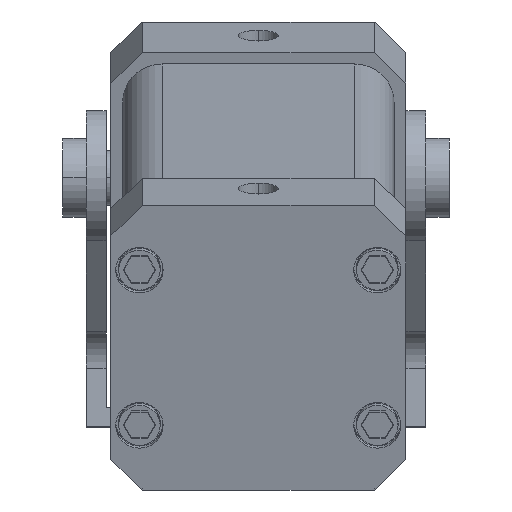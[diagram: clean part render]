
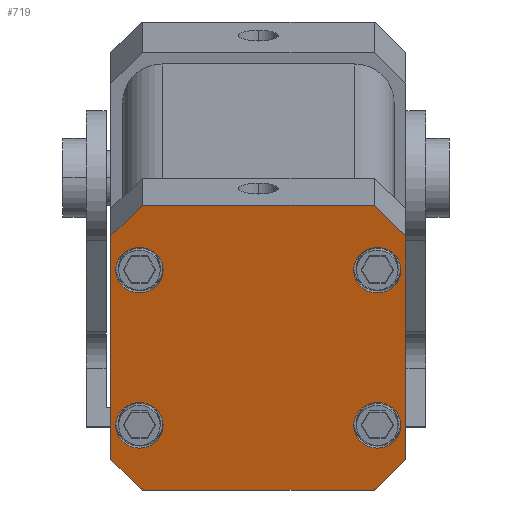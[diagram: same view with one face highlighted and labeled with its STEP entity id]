
A CAD part, top view. The second image highlights one B-rep face of the part: STEP entity #719.
In plain terms, the highlighted planar face has unit normal (0, -0.267, 0.964) as drawn and (0, 0, 1) by its records, which use the part's own axes.
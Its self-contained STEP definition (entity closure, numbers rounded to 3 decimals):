
#127 = EDGE_LOOP ( 'NONE', ( #15977, #11120 ) ) ;
#320 = LINE ( 'NONE', #19350, #10382 ) ;
#416 = CARTESIAN_POINT ( 'NONE',  ( 35.4, 35.4, 87.6 ) ) ;
#429 = CARTESIAN_POINT ( 'NONE',  ( 6.625, 8.5, 87.6 ) ) ;
#517 = VECTOR ( 'NONE', #15770, 1000. ) ;
#719 = ADVANCED_FACE ( 'NONE', ( #22125, #3221, #7070, #2055, #21557 ), #8560, .T. ) ;
#875 = CARTESIAN_POINT ( 'NONE',  ( 0.625, 8.5, 87.6 ) ) ;
#992 = DIRECTION ( 'NONE',  ( 0., 0., -1. ) ) ;
#1307 = DIRECTION ( 'NONE',  ( -1., 0., 0. ) ) ;
#1386 = CARTESIAN_POINT ( 'NONE',  ( 33.775, 8.5, 87.6 ) ) ;
#1423 = CARTESIAN_POINT ( 'NONE',  ( 36.775, 28.9, 87.6 ) ) ;
#1503 = CARTESIAN_POINT ( 'NONE',  ( 33.4, 0., 87.6 ) ) ;
#1799 = DIRECTION ( 'NONE',  ( 0., 0., -1. ) ) ;
#2055 = FACE_BOUND ( 'NONE', #127, .T. ) ;
#2166 = EDGE_CURVE ( 'NONE', #16279, #14895, #9711, .T. ) ;
#2307 = DIRECTION ( 'NONE',  ( -0.707, 0.707, 0. ) ) ;
#2410 = DIRECTION ( 'NONE',  ( 0., 0., -1. ) ) ;
#2548 = AXIS2_PLACEMENT_3D ( 'NONE', #23939, #12628, #1307 ) ;
#2658 = VECTOR ( 'NONE', #9600, 1000. ) ;
#2850 = CARTESIAN_POINT ( 'NONE',  ( -16.7, 16.7, 87.6 ) ) ;
#2924 = AXIS2_PLACEMENT_3D ( 'NONE', #13734, #2410, #15642 ) ;
#2927 = VERTEX_POINT ( 'NONE', #12424 ) ;
#3221 = FACE_BOUND ( 'NONE', #16636, .T. ) ;
#3300 = DIRECTION ( 'NONE',  ( -1., 0., 0. ) ) ;
#3423 = ORIENTED_EDGE ( 'NONE', *, *, #9292, .T. ) ;
#3556 = VECTOR ( 'NONE', #17983, 1000. ) ;
#3708 = VERTEX_POINT ( 'NONE', #13840 ) ;
#3709 = VECTOR ( 'NONE', #23473, 1000. ) ;
#3729 = VERTEX_POINT ( 'NONE', #17605 ) ;
#3734 = CARTESIAN_POINT ( 'NONE',  ( 37.4, 4., 87.6 ) ) ;
#4413 = VECTOR ( 'NONE', #16089, 1000. ) ;
#4828 = ORIENTED_EDGE ( 'NONE', *, *, #12295, .T. ) ;
#4975 = ORIENTED_EDGE ( 'NONE', *, *, #2166, .T. ) ;
#5644 = DIRECTION ( 'NONE',  ( 0.707, 0.707, 0. ) ) ;
#5782 = AXIS2_PLACEMENT_3D ( 'NONE', #21749, #23643, #12354 ) ;
#5854 = AXIS2_PLACEMENT_3D ( 'NONE', #6261, #19455, #8157 ) ;
#6261 = CARTESIAN_POINT ( 'NONE',  ( 33.775, 28.9, 87.6 ) ) ;
#6310 = ORIENTED_EDGE ( 'NONE', *, *, #9264, .T. ) ;
#7070 = FACE_BOUND ( 'NONE', #23669, .T. ) ;
#7167 = CARTESIAN_POINT ( 'NONE',  ( 30.775, 28.9, 87.6 ) ) ;
#7373 = VERTEX_POINT ( 'NONE', #16523 ) ;
#7542 = CARTESIAN_POINT ( 'NONE',  ( 16.7, -16.7, 87.6 ) ) ;
#7736 = EDGE_CURVE ( 'NONE', #2927, #9060, #13211, .T. ) ;
#8047 = DIRECTION ( 'NONE',  ( 0., 1., 0. ) ) ;
#8157 = DIRECTION ( 'NONE',  ( -1., 0., 0. ) ) ;
#8175 = VERTEX_POINT ( 'NONE', #1503 ) ;
#8353 = ORIENTED_EDGE ( 'NONE', *, *, #22938, .T. ) ;
#8380 = CARTESIAN_POINT ( 'NONE',  ( 36.775, 8.5, 87.6 ) ) ;
#8407 = CARTESIAN_POINT ( 'NONE',  ( 0., 0., 87.6 ) ) ;
#8519 = CARTESIAN_POINT ( 'NONE',  ( 2., 2., 87.6 ) ) ;
#8560 = PLANE ( 'NONE',  #5782 ) ;
#8655 = EDGE_CURVE ( 'NONE', #20695, #12587, #16965, .T. ) ;
#8818 = DIRECTION ( 'NONE',  ( 0., 0., -1. ) ) ;
#9060 = VERTEX_POINT ( 'NONE', #15613 ) ;
#9256 = AXIS2_PLACEMENT_3D ( 'NONE', #13111, #1799, #15020 ) ;
#9264 = EDGE_CURVE ( 'NONE', #12587, #20695, #11652, .T. ) ;
#9292 = EDGE_CURVE ( 'NONE', #14895, #16279, #22236, .T. ) ;
#9600 = DIRECTION ( 'NONE',  ( 0., -1., 0. ) ) ;
#9711 = CIRCLE ( 'NONE', #18126, 3. ) ;
#10029 = AXIS2_PLACEMENT_3D ( 'NONE', #1386, #14639, #3300 ) ;
#10129 = ORIENTED_EDGE ( 'NONE', *, *, #22281, .T. ) ;
#10359 = LINE ( 'NONE', #416, #19794 ) ;
#10382 = VECTOR ( 'NONE', #8047, 1000. ) ;
#10389 = EDGE_CURVE ( 'NONE', #7373, #12397, #14215, .T. ) ;
#10644 = DIRECTION ( 'NONE',  ( 0., 0., -1. ) ) ;
#10704 = CIRCLE ( 'NONE', #5854, 3. ) ;
#10762 = VERTEX_POINT ( 'NONE', #12619 ) ;
#11120 = ORIENTED_EDGE ( 'NONE', *, *, #21333, .T. ) ;
#11320 = VERTEX_POINT ( 'NONE', #7167 ) ;
#11652 = CIRCLE ( 'NONE', #17711, 3. ) ;
#11953 = EDGE_CURVE ( 'NONE', #12397, #8175, #13767, .T. ) ;
#12295 = EDGE_CURVE ( 'NONE', #8175, #24184, #22581, .T. ) ;
#12312 = CARTESIAN_POINT ( 'NONE',  ( 3.625, 8.5, 87.6 ) ) ;
#12354 = DIRECTION ( 'NONE',  ( 1., 0., 0. ) ) ;
#12397 = VERTEX_POINT ( 'NONE', #22795 ) ;
#12424 = CARTESIAN_POINT ( 'NONE',  ( 6.625, 28.9, 87.6 ) ) ;
#12480 = EDGE_CURVE ( 'NONE', #9060, #2927, #14630, .T. ) ;
#12587 = VERTEX_POINT ( 'NONE', #8380 ) ;
#12619 = CARTESIAN_POINT ( 'NONE',  ( 4., 37.4, 87.6 ) ) ;
#12628 = DIRECTION ( 'NONE',  ( 0., 0., -1. ) ) ;
#13111 = CARTESIAN_POINT ( 'NONE',  ( 33.775, 28.9, 87.6 ) ) ;
#13211 = CIRCLE ( 'NONE', #2548, 3. ) ;
#13612 = ORIENTED_EDGE ( 'NONE', *, *, #20842, .T. ) ;
#13718 = CARTESIAN_POINT ( 'NONE',  ( 33.4, 37.4, 87.6 ) ) ;
#13734 = CARTESIAN_POINT ( 'NONE',  ( 3.625, 28.9, 87.6 ) ) ;
#13767 = LINE ( 'NONE', #8407, #3709 ) ;
#13840 = CARTESIAN_POINT ( 'NONE',  ( 0., 33.4, 87.6 ) ) ;
#13848 = CARTESIAN_POINT ( 'NONE',  ( 0., 37.4, 87.6 ) ) ;
#14215 = LINE ( 'NONE', #8519, #3556 ) ;
#14222 = DIRECTION ( 'NONE',  ( -1., 0., 0. ) ) ;
#14272 = ORIENTED_EDGE ( 'NONE', *, *, #7736, .T. ) ;
#14445 = ORIENTED_EDGE ( 'NONE', *, *, #21785, .T. ) ;
#14630 = CIRCLE ( 'NONE', #2924, 3. ) ;
#14639 = DIRECTION ( 'NONE',  ( 0., 0., -1. ) ) ;
#14895 = VERTEX_POINT ( 'NONE', #875 ) ;
#15020 = DIRECTION ( 'NONE',  ( -1., 0., 0. ) ) ;
#15610 = LINE ( 'NONE', #13848, #517 ) ;
#15613 = CARTESIAN_POINT ( 'NONE',  ( 0.625, 28.9, 87.6 ) ) ;
#15642 = DIRECTION ( 'NONE',  ( -1., 0., 0. ) ) ;
#15770 = DIRECTION ( 'NONE',  ( -1., 0., 0. ) ) ;
#15836 = ORIENTED_EDGE ( 'NONE', *, *, #8655, .T. ) ;
#15977 = ORIENTED_EDGE ( 'NONE', *, *, #17343, .T. ) ;
#16089 = DIRECTION ( 'NONE',  ( -0.707, -0.707, 0. ) ) ;
#16279 = VERTEX_POINT ( 'NONE', #429 ) ;
#16514 = ORIENTED_EDGE ( 'NONE', *, *, #19998, .T. ) ;
#16523 = CARTESIAN_POINT ( 'NONE',  ( 0., 4., 87.6 ) ) ;
#16636 = EDGE_LOOP ( 'NONE', ( #4975, #3423 ) ) ;
#16767 = EDGE_LOOP ( 'NONE', ( #14445, #10129, #13612, #8353, #16514, #18383, #23640, #4828 ) ) ;
#16965 = CIRCLE ( 'NONE', #10029, 3. ) ;
#17343 = EDGE_CURVE ( 'NONE', #21587, #11320, #22009, .T. ) ;
#17533 = ORIENTED_EDGE ( 'NONE', *, *, #12480, .T. ) ;
#17605 = CARTESIAN_POINT ( 'NONE',  ( 37.4, 33.4, 87.6 ) ) ;
#17711 = AXIS2_PLACEMENT_3D ( 'NONE', #21934, #10644, #23823 ) ;
#17983 = DIRECTION ( 'NONE',  ( 0.707, -0.707, 0. ) ) ;
#18126 = AXIS2_PLACEMENT_3D ( 'NONE', #12312, #992, #14222 ) ;
#18383 = ORIENTED_EDGE ( 'NONE', *, *, #10389, .T. ) ;
#18493 = VERTEX_POINT ( 'NONE', #13718 ) ;
#18970 = CARTESIAN_POINT ( 'NONE',  ( 30.775, 8.5, 87.6 ) ) ;
#19350 = CARTESIAN_POINT ( 'NONE',  ( 37.4, 37.4, 87.6 ) ) ;
#19455 = DIRECTION ( 'NONE',  ( 0., 0., -1. ) ) ;
#19794 = VECTOR ( 'NONE', #2307, 1000. ) ;
#19998 = EDGE_CURVE ( 'NONE', #3708, #7373, #22726, .T. ) ;
#20099 = CARTESIAN_POINT ( 'NONE',  ( 3.625, 8.5, 87.6 ) ) ;
#20695 = VERTEX_POINT ( 'NONE', #18970 ) ;
#20842 = EDGE_CURVE ( 'NONE', #18493, #10762, #15610, .T. ) ;
#20887 = CARTESIAN_POINT ( 'NONE',  ( 0., 37.4, 87.6 ) ) ;
#21333 = EDGE_CURVE ( 'NONE', #11320, #21587, #10704, .T. ) ;
#21526 = EDGE_LOOP ( 'NONE', ( #6310, #15836 ) ) ;
#21557 = FACE_OUTER_BOUND ( 'NONE', #16767, .T. ) ;
#21587 = VERTEX_POINT ( 'NONE', #1423 ) ;
#21749 = CARTESIAN_POINT ( 'NONE',  ( 0., 0., 87.6 ) ) ;
#21785 = EDGE_CURVE ( 'NONE', #24184, #3729, #320, .T. ) ;
#21934 = CARTESIAN_POINT ( 'NONE',  ( 33.775, 8.5, 87.6 ) ) ;
#21983 = VECTOR ( 'NONE', #5644, 1000. ) ;
#22000 = DIRECTION ( 'NONE',  ( -1., 0., 0. ) ) ;
#22009 = CIRCLE ( 'NONE', #9256, 3. ) ;
#22125 = FACE_BOUND ( 'NONE', #21526, .T. ) ;
#22236 = CIRCLE ( 'NONE', #22778, 3. ) ;
#22281 = EDGE_CURVE ( 'NONE', #3729, #18493, #10359, .T. ) ;
#22581 = LINE ( 'NONE', #7542, #21983 ) ;
#22682 = LINE ( 'NONE', #2850, #4413 ) ;
#22726 = LINE ( 'NONE', #20887, #2658 ) ;
#22778 = AXIS2_PLACEMENT_3D ( 'NONE', #20099, #8818, #22000 ) ;
#22795 = CARTESIAN_POINT ( 'NONE',  ( 4., 0., 87.6 ) ) ;
#22938 = EDGE_CURVE ( 'NONE', #10762, #3708, #22682, .T. ) ;
#23473 = DIRECTION ( 'NONE',  ( 1., 0., 0. ) ) ;
#23640 = ORIENTED_EDGE ( 'NONE', *, *, #11953, .T. ) ;
#23643 = DIRECTION ( 'NONE',  ( 0., 0., 1. ) ) ;
#23669 = EDGE_LOOP ( 'NONE', ( #14272, #17533 ) ) ;
#23823 = DIRECTION ( 'NONE',  ( -1., 0., 0. ) ) ;
#23939 = CARTESIAN_POINT ( 'NONE',  ( 3.625, 28.9, 87.6 ) ) ;
#24184 = VERTEX_POINT ( 'NONE', #3734 ) ;
